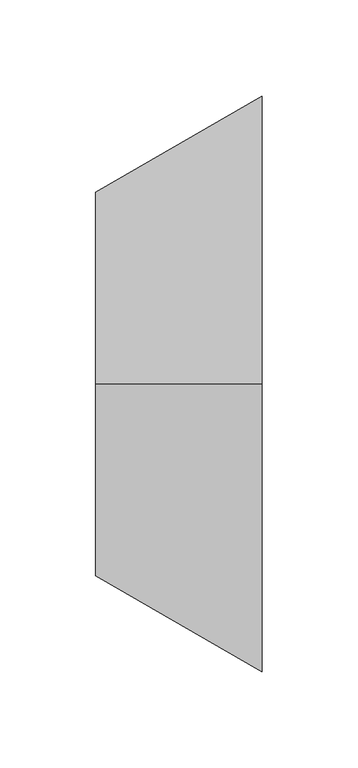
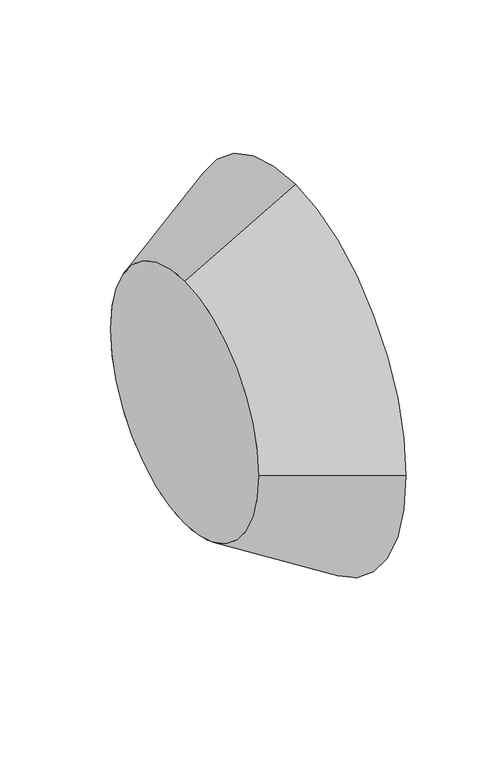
"""IFC4 building model written with IfcOpenShell, lengths in millimetres: duct fitting geometry, magicirc_reduction_001 : magicirc_reduction_001."""

from ifc_helpers import new_model, si_unit, frame, origin, place, context, project, spatial, polyline, circle_curve, source, transform, mapped, element, save
from ifc_brep_helpers import plane_surface, revolved_surface, advanced_brep


def duct_fitting_3b946b4f(model_context):
    return source(origin(), model_context, "Body", "AdvancedBrep", [
        advanced_brep(
        [(86.6025404, -150.0, 0.0), (86.6025404, 0.0, -150.0), (86.6025404, 150.0, 0.0), (86.6025404, 0.0, 150.0), (0.0, -100.0, 0.0), (0.0, 0.0, 100.0), (0.0, 100.0, 0.0), (0.0, 0.0, -100.0)],
        [
            (0, 1, circle_curve(frame((86.6025404, 0.0, 0.0), z_axis=(1.0, 0.0, 0.0), x_axis=(0.0, -1.0, 0.0)), 150.0)),
            (1, 2, circle_curve(frame((86.6025404, 0.0, 0.0), z_axis=(1.0, 0.0, 0.0), x_axis=(0.0, 0.0, -1.0)), 150.0)),
            (2, 3, circle_curve(frame((86.6025404, 0.0, 0.0), z_axis=(1.0, 0.0, 0.0), x_axis=(0.0, 1.0, 0.0)), 150.0)),
            (3, 0, circle_curve(frame((86.6025404, 0.0, 0.0), z_axis=(1.0, 0.0, 0.0), x_axis=(0.0, 0.0, 1.0)), 150.0)),
            (4, 5, circle_curve(frame((0.0, 0.0, 0.0), z_axis=(-1.0, 0.0, 0.0), x_axis=(0.0, 0.0, 1.0)), 100.0)),
            (5, 6, circle_curve(frame((0.0, 0.0, 0.0), z_axis=(-1.0, 0.0, 0.0), x_axis=(0.0, 1.0, 0.0)), 100.0)),
            (6, 7, circle_curve(frame((0.0, 0.0, 0.0), z_axis=(-1.0, 0.0, 0.0), x_axis=(0.0, 0.0, -1.0)), 100.0)),
            (7, 4, circle_curve(frame((0.0, 0.0, 0.0), z_axis=(-1.0, 0.0, 0.0), x_axis=(0.0, -1.0, 0.0)), 100.0)),
            (7, 1),
            (0, 4),
            (6, 2),
            (5, 3),
        ],
        [
            plane_surface(frame((86.6025404, 0.0, 0.0), z_axis=(1.0, 0.0, 0.0), x_axis=(0.0, 0.0, -1.0))),
            plane_surface(frame((0.0, 0.0, 0.0), z_axis=(-1.0, 0.0, 0.0), x_axis=(0.0, 0.0, -1.0))),
            revolved_surface(polyline([(0.0, 0.0, -100.00000000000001), (86.60254039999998, 0.0, -150.0)]), (-173.2050808, 0.0, 0.0), (1.0, 0.0, 0.0)),
            revolved_surface(polyline([(0.0, 100.00000000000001, 0.0), (86.60254039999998, 150.0, 0.0)]), (-173.2050808, 0.0, 0.0), (1.0, 0.0, 0.0)),
            revolved_surface(polyline([(0.0, 0.0, 100.00000000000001), (86.60254039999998, 0.0, 150.0)]), (-173.2050808, 0.0, 0.0), (1.0, 0.0, 0.0)),
            revolved_surface(polyline([(0.0, -100.00000000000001, 0.0), (86.60254039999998, -150.0, 0.0)]), (-173.2050808, 0.0, 0.0), (1.0, 0.0, 0.0)),
        ],
        [
            (0, [[1, 2, 3, 4]]),
            (1, [[5, 6, 7, 8]]),
            (2, [[-8, 9, -1, 10]]),
            (3, [[-7, 11, -2, -9]]),
            (4, [[-6, 12, -3, -11]]),
            (5, [[-5, -10, -4, -12]]),
        ],
    ),
        advanced_brep(
        [(0.0, -100.0, 0.0), (0.0, 0.0, 100.0), (0.0, 100.0, 0.0), (0.0, 0.0, -100.0), (86.6025404, -150.0, 0.0), (86.6025404, 0.0, -150.0), (86.6025404, 150.0, 0.0), (86.6025404, 0.0, 150.0)],
        [
            (0, 1, circle_curve(frame((0.0, 0.0, 0.0), z_axis=(-1.0, 0.0, 0.0), x_axis=(0.0, -1.0, 0.0)), 100.0)),
            (1, 2, circle_curve(frame((0.0, 0.0, 0.0), z_axis=(-1.0, 0.0, 0.0), x_axis=(0.0, 0.0, 1.0)), 100.0)),
            (2, 3, circle_curve(frame((0.0, 0.0, 0.0), z_axis=(-1.0, 0.0, 0.0), x_axis=(0.0, 1.0, 0.0)), 100.0)),
            (3, 0, circle_curve(frame((0.0, 0.0, 0.0), z_axis=(-1.0, 0.0, 0.0), x_axis=(0.0, 0.0, -1.0)), 100.0)),
            (4, 5, circle_curve(frame((86.6025404, 0.0, 0.0), z_axis=(1.0, 0.0, 0.0), x_axis=(0.0, 0.0, -1.0)), 150.0)),
            (5, 6, circle_curve(frame((86.6025404, 0.0, 0.0), z_axis=(1.0, 0.0, 0.0), x_axis=(0.0, 1.0, 0.0)), 150.0)),
            (6, 7, circle_curve(frame((86.6025404, 0.0, 0.0), z_axis=(1.0, 0.0, 0.0), x_axis=(0.0, 0.0, 1.0)), 150.0)),
            (7, 4, circle_curve(frame((86.6025404, 0.0, 0.0), z_axis=(1.0, 0.0, 0.0), x_axis=(0.0, -1.0, 0.0)), 150.0)),
            (7, 1),
            (0, 4),
            (6, 2),
            (5, 3),
        ],
        [
            plane_surface(frame((0.0, 0.0, 0.0), z_axis=(-1.0, 0.0, 0.0), x_axis=(0.0, 0.0, -1.0))),
            plane_surface(frame((86.6025404, 0.0, 0.0), z_axis=(1.0, 0.0, 0.0), x_axis=(0.0, 0.0, -1.0))),
            revolved_surface(polyline([(0.0, -100.00000000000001, 0.0), (86.60254039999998, -150.0, 0.0)]), (-173.2050808, 0.0, 0.0), (1.0, 0.0, 0.0)),
            revolved_surface(polyline([(0.0, 0.0, 100.00000000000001), (86.60254039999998, 0.0, 150.0)]), (-173.2050808, 0.0, 0.0), (1.0, 0.0, 0.0)),
            revolved_surface(polyline([(0.0, 100.00000000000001, 0.0), (86.60254039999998, 150.0, 0.0)]), (-173.2050808, 0.0, 0.0), (1.0, 0.0, 0.0)),
            revolved_surface(polyline([(0.0, 0.0, -100.00000000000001), (86.60254039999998, 0.0, -150.0)]), (-173.2050808, 0.0, 0.0), (1.0, 0.0, 0.0)),
        ],
        [
            (0, [[1, 2, 3, 4]]),
            (1, [[5, 6, 7, 8]]),
            (2, [[-8, 9, -1, 10]]),
            (3, [[-7, 11, -2, -9]]),
            (4, [[-6, 12, -3, -11]]),
            (5, [[-5, -10, -4, -12]]),
        ],
    ),
        advanced_brep(
        [(86.6025404, -150.0, 0.0), (86.6025404, 150.0, 0.0), (0.0, -100.0, 0.0), (0.0, 100.0, 0.0)],
        [
            (0, 1, circle_curve(frame((86.6025404, 0.0, 0.0), z_axis=(1.0, 0.0, 0.0), x_axis=(0.0, -1.0, 0.0)), 150.0)),
            (1, 0, circle_curve(frame((86.6025404, 0.0, 0.0), z_axis=(1.0, 0.0, 0.0), x_axis=(0.0, 1.0, 0.0)), 150.0)),
            (2, 3, circle_curve(frame((0.0, 0.0, 0.0), z_axis=(-1.0, 0.0, 0.0), x_axis=(0.0, 1.0, 0.0)), 100.0)),
            (3, 2, circle_curve(frame((0.0, 0.0, 0.0), z_axis=(-1.0, 0.0, 0.0), x_axis=(0.0, -1.0, 0.0)), 100.0)),
            (3, 1),
            (0, 2),
        ],
        [
            plane_surface(frame((86.6025404, 0.0, 0.0), z_axis=(1.0, 0.0, 0.0), x_axis=(0.0, 0.0, -1.0))),
            plane_surface(frame((0.0, 0.0, 0.0), z_axis=(-1.0, 0.0, 0.0), x_axis=(0.0, 0.0, -1.0))),
            revolved_surface(polyline([(0.0, 100.00000000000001, 0.0), (86.60254039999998, 150.0, 0.0)]), (-173.2050808, 0.0, 0.0), (1.0, 0.0, 0.0)),
            revolved_surface(polyline([(0.0, -100.00000000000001, 0.0), (86.60254039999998, -150.0, 0.0)]), (-173.2050808, 0.0, 0.0), (1.0, 0.0, 0.0)),
        ],
        [
            (0, [[1, 2]]),
            (1, [[3, 4]]),
            (2, [[-4, 5, -1, 6]]),
            (3, [[-3, -6, -2, -5]]),
        ],
    ),
    ])


if __name__ == "__main__":
    model = new_model("IFC4")
    model_context = context("Model", 3, world=origin())
    ifc_project = project(units=[si_unit("LENGTHUNIT", "METRE", prefix="MILLI")], contexts=[model_context])
    site = spatial("IfcSite", under=ifc_project)
    building = spatial("IfcBuilding", under=site)
    placement = place(None, origin())
    duct_fitting_shape = duct_fitting_3b946b4f(model_context)
    element("IfcDuctFitting", 1, ObjectType="magicirc_reduction_001 : magicirc_reduction_001", at=placement, inside=building, context=model_context, shape_type="MappedRepresentation", body=[
        mapped(duct_fitting_shape, transform((0.0, 0.0, 0.0), x_axis=(1.0, 0.0, 0.0), y_axis=(0.0, 1.0, 0.0), z_axis=(0.0, 0.0, 1.0))),
    ])
    save(model, "model.ifc")
